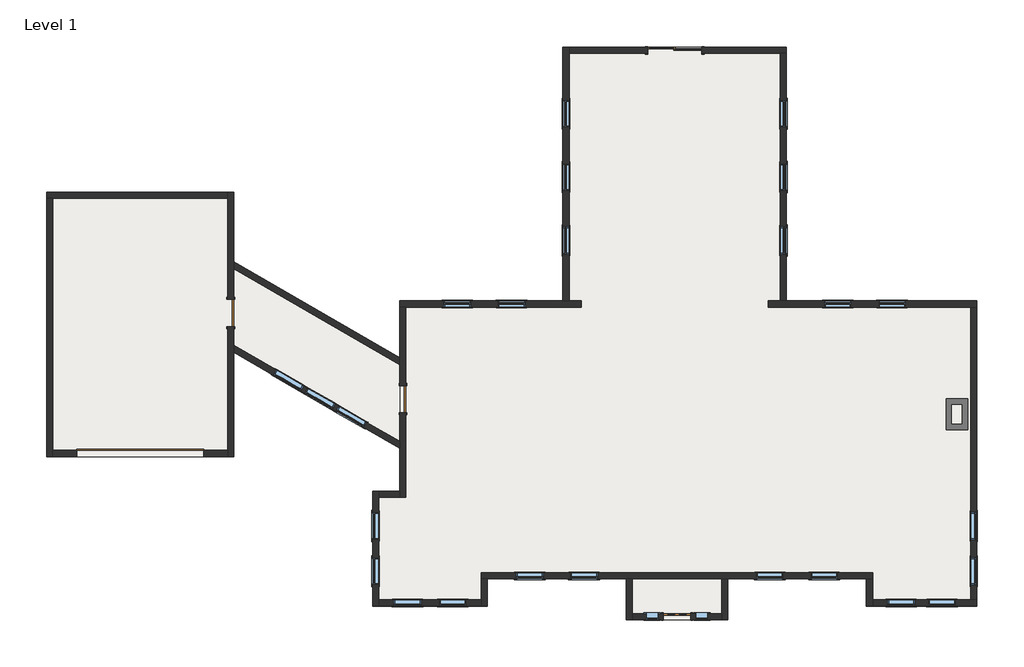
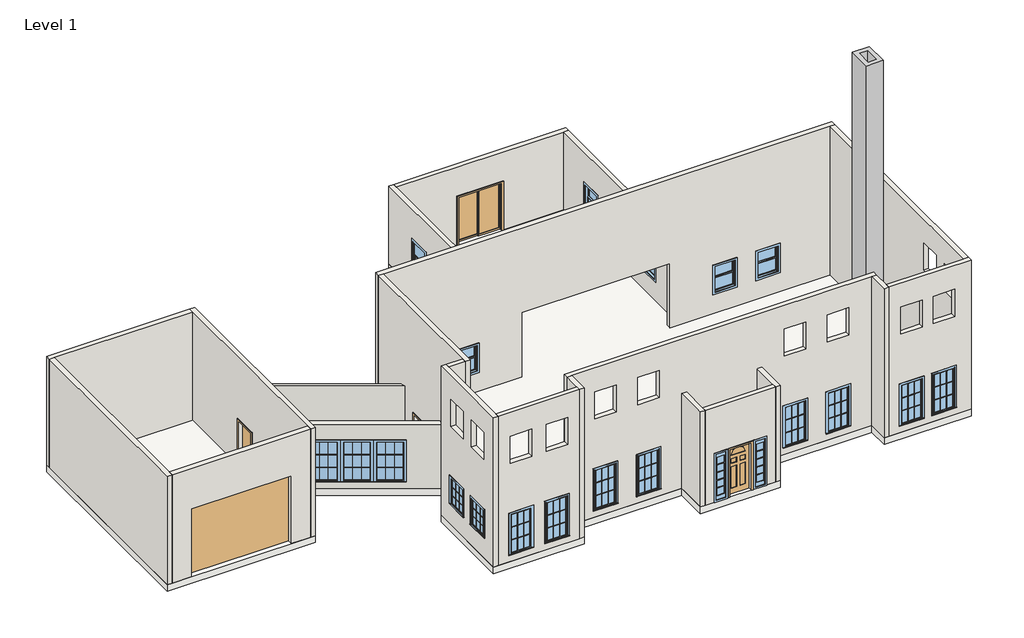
# One storey: 27 windows, 22 walls, 5 doors, 3 slabs, 1 proxy.
"""IFC4 building model written with IfcOpenShell, lengths in millimetres."""

from ifc_helpers import new_model, si_unit, frame, origin, origin_with_axes, place, context, project, spatial, polyline, outline, extrude, faceted_brep, transform, mapped, element, save
from components import chimney_chimney_af68f421, overhead_sectional_14_x_10_8c0ee61c, door_b1a02c97, door_4f2f89b6, door_f8fd2036, casement_3x3_with_trim_8b323df3, casement_3x3_with_trim_29c06734, casement_3x3_with_trim_7d330b5e, double_hung_with_trim_31198920, window_b28cb548, window_fc224a87

model = new_model("IFC4")

# Units and contexts
model_context = context("Model", 3, world=origin())
ifc_project = project(units=[si_unit("LENGTHUNIT", "METRE", prefix="MILLI")], contexts=[model_context])

# Site, building, storey
site = spatial("IfcSite", under=ifc_project)
building = spatial("IfcBuilding", under=site)
storey = spatial("IfcBuildingStorey", under=building, Name="Level 1", Elevation=0.0)

# Proxy
placement = place(None, origin())
chimney_chimney_shape = chimney_chimney_af68f421(model_context)
element("IfcBuildingElementProxy", 1, Name="chimney : chimney", ObjectType="chimney : chimney", at=placement, inside=storey, context=model_context, shape_type="MappedRepresentation", body=[
    mapped(chimney_chimney_shape, transform((0.0, 0.0, 0.0), x_axis=(1.0, 0.0, 0.0), y_axis=(0.0, 1.0, 0.0), z_axis=(0.0, 0.0, 1.0))),
])

# Doors
overhead_sectional_14_x_10_shape = overhead_sectional_14_x_10_8c0ee61c(model_context)
element("IfcDoor", 2, ObjectType="Overhead Sectional : 14 x 10", at=placement, inside=storey, context=model_context, shape_type="MappedRepresentation", body=[
    mapped(overhead_sectional_14_x_10_shape, transform((-185224.9354666, 11098.6757393, 0.0), x_axis=(-1.0, 0.0, 0.0), y_axis=(0.0, -1.0, 0.0), z_axis=(0.0, 0.0, 1.0))),
])
door_shape = door_b1a02c97(model_context)
element("IfcDoor", 3, ObjectType="Sample Decorative 2 : 36\" x 84\"", at=placement, inside=storey, context=model_context, shape_type="MappedRepresentation", body=[
    mapped(door_shape, transform((-167165.5354666, 5612.2757393, 0.0), x_axis=(1.0, 0.0, 0.0), y_axis=(0.0, 1.0, 0.0), z_axis=(0.0, 0.0, 1.0))),
])
door_2_shape = door_4f2f89b6(model_context)
element("IfcDoor", 4, ObjectType="Sgl Flush : 36\" x 80\"", at=placement, inside=storey, context=model_context, shape_type="MappedRepresentation", body=[
    mapped(door_2_shape, transform((-176385.7354666, 12927.4757393, 0.0), x_axis=(0.0, -1.0, 0.0), y_axis=(1.0, 0.0, 0.0), z_axis=(0.0, 0.0, 1.0))),
])
element("IfcDoor", 5, ObjectType="Sgl Flush : 36\" x 80\"", at=placement, inside=storey, context=model_context, shape_type="MappedRepresentation", body=[
    mapped(door_2_shape, transform((-182176.9354666, 15823.0757393, 0.0), x_axis=(0.0, -1.0, 0.0), y_axis=(1.0, 0.0, 0.0), z_axis=(0.0, 0.0, 1.0))),
])
door_3_shape = door_f8fd2036(model_context)
element("IfcDoor", 6, ObjectType="Sliding-2 panel : 72\" x 84\"", at=placement, inside=storey, context=model_context, shape_type="MappedRepresentation", body=[
    mapped(door_3_shape, transform((-167241.7354666, 24535.2757393, 0.0), x_axis=(1.0, 0.0, 0.0), y_axis=(0.0, 1.0, 0.0), z_axis=(0.0, 0.0, 1.0))),
])

# Slabs
element("IfcSlab", 7, ObjectType="Generic - 12\"", at=placement, inside=storey, context=model_context, shape_type="SweptSolid", body=[
    extrude(outline(polyline([(-188374.5354666, 19887.0757393), (-182075.3354666, 19887.0757393), (-182075.3354666, 10997.0757393), (-188374.5354666, 10997.0757393), (-188374.5354666, 19887.0757393)])), frame((0.0, 0.0, -304.8), z_axis=(0.0, 0.0, 1.0), x_axis=(1.0, 0.0, 0.0)), (0.0, 0.0, 1.0), 304.8),
])
element("IfcSlab", 8, ObjectType="Generic - 12\"", at=placement, inside=storey, context=model_context, shape_type="SweptSolid", body=[
    extrude(outline(polyline([(-182075.3354666, 17548.8854056), (-176487.3354666, 14322.6521013), (-176487.3354666, 11272.3951592), (-182075.3354666, 14498.6284634), (-182075.3354666, 17548.8854056)])), frame((0.0, 0.0, -304.8), z_axis=(0.0, 0.0, 1.0), x_axis=(1.0, 0.0, 0.0)), (0.0, 0.0, 1.0), 304.8),
])
element("IfcSlab", 9, ObjectType="Generic - 12\"", at=placement, inside=storey, context=model_context, shape_type="SweptSolid", body=[
    extrude(outline(polyline([(-171000.9354666, 16229.4757393), (-171000.9354666, 24763.8757393), (-163482.5354666, 24763.8757393), (-163482.5354666, 16229.4757393), (-157081.7354666, 16229.4757393), (-157081.7354666, 5967.8757393), (-160790.1354666, 5967.8757393), (-160790.1354666, 6882.2757393), (-165463.7354666, 6882.2757393), (-165463.7354666, 5510.6757393), (-168867.3354666, 5510.6757393), (-168867.3354666, 6882.2757393), (-173540.9354666, 6882.2757393), (-173540.9354666, 5967.8757393), (-177401.7354666, 5967.8757393), (-177401.7354666, 9828.6757393), (-176487.3354666, 9828.6757393), (-176487.3354666, 16229.4757393), (-171000.9354666, 16229.4757393)])), frame((0.0, 0.0, -304.8), z_axis=(0.0, 0.0, 1.0), x_axis=(1.0, 0.0, 0.0)), (0.0, 0.0, 1.0), 304.8),
])

# Walls
element("IfcWall", 10, ObjectType="Generic - 8\"", at=placement, inside=storey, context=model_context, shape_type="Brep", body=[
    faceted_brep([(-176487.3354666, 16026.2757393, 0.0), (-176284.1354666, 16026.2757393, 0.0), (-170391.3354666, 16026.2757393, 0.0), (-170391.3354666, 16026.2757393, 2895.6), (-164092.1354666, 16026.2757393, 2895.6), (-164092.1354666, 16026.2757393, 0.0), (-157284.9354666, 16026.2757393, 0.0), (-157081.7354666, 16026.2757393, 0.0), (-157081.7354666, 16026.2757393, 6705.6), (-157284.9354666, 16026.2757393, 6705.6), (-176284.1354666, 16026.2757393, 6705.6), (-176487.3354666, 16026.2757393, 6705.6), (-159469.3354666, 16026.2757393, 2133.6), (-159469.3354666, 16026.2757393, 914.4), (-160383.7354666, 16026.2757393, 914.4), (-160383.7354666, 16026.2757393, 2133.6), (-161298.1354666, 16026.2757393, 2133.6), (-161298.1354666, 16026.2757393, 914.4), (-162212.5354666, 16026.2757393, 914.4), (-162212.5354666, 16026.2757393, 2133.6), (-172270.9354666, 16026.2757393, 2133.6), (-172270.9354666, 16026.2757393, 914.4), (-173185.3354666, 16026.2757393, 914.4), (-173185.3354666, 16026.2757393, 2133.6), (-174099.7354666, 16026.2757393, 2133.6), (-174099.7354666, 16026.2757393, 914.4), (-175014.1354666, 16026.2757393, 914.4), (-175014.1354666, 16026.2757393, 2133.6), (-176487.3354666, 16229.4757393, 0.0), (-176487.3354666, 16229.4757393, 6705.6), (-157081.7354666, 16229.4757393, 6705.6), (-157081.7354666, 16229.4757393, 0.0), (-163482.5354666, 16229.4757393, 0.0), (-163685.7354666, 16229.4757393, 0.0), (-164092.1354666, 16229.4757393, 0.0), (-164092.1354666, 16229.4757393, 2895.6), (-170391.3354666, 16229.4757393, 2895.6), (-170391.3354666, 16229.4757393, 0.0), (-170797.7354666, 16229.4757393, 0.0), (-171000.9354666, 16229.4757393, 0.0), (-159469.3354666, 16229.4757393, 2133.6), (-160383.7354666, 16229.4757393, 2133.6), (-160383.7354666, 16229.4757393, 914.4), (-159469.3354666, 16229.4757393, 914.4), (-161298.1354666, 16229.4757393, 2133.6), (-162212.5354666, 16229.4757393, 2133.6), (-162212.5354666, 16229.4757393, 914.4), (-161298.1354666, 16229.4757393, 914.4), (-172270.9354666, 16229.4757393, 2133.6), (-173185.3354666, 16229.4757393, 2133.6), (-173185.3354666, 16229.4757393, 914.4), (-172270.9354666, 16229.4757393, 914.4), (-174099.7354666, 16229.4757393, 2133.6), (-175014.1354666, 16229.4757393, 2133.6), (-175014.1354666, 16229.4757393, 914.4), (-174099.7354666, 16229.4757393, 914.4)], [[[0, 1, 2, 3, 4, 5, 6, 7, 8, 9, 10, 11], [12, 13, 14, 15], [16, 17, 18, 19], [20, 21, 22, 23], [24, 25, 26, 27]], [[28, 29, 30, 31, 32, 33, 34, 35, 36, 37, 38, 39], [40, 41, 42, 43], [44, 45, 46, 47], [48, 49, 50, 51], [52, 53, 54, 55]], [[2, 1, 0, 28, 39, 38, 37]], [[11, 10, 9, 8, 30, 29]], [[0, 11, 29, 28]], [[3, 2, 37, 36]], [[4, 3, 36, 35]], [[5, 4, 35, 34]], [[7, 6, 5, 34, 33, 32, 31]], [[8, 7, 31, 30]], [[13, 12, 40, 43]], [[14, 13, 43, 42]], [[15, 14, 42, 41]], [[12, 15, 41, 40]], [[17, 16, 44, 47]], [[18, 17, 47, 46]], [[19, 18, 46, 45]], [[16, 19, 45, 44]], [[21, 20, 48, 51]], [[22, 21, 51, 50]], [[23, 22, 50, 49]], [[20, 23, 49, 48]], [[25, 24, 52, 55]], [[26, 25, 55, 54]], [[27, 26, 54, 53]], [[24, 27, 53, 52]]]),
])
element("IfcWall", 11, ObjectType="Generic - 8\"", at=placement, inside=storey, context=model_context, shape_type="Brep", body=[
    faceted_brep([(-176284.1354666, 9625.4757393, 0.0), (-176284.1354666, 12470.2757393, 0.0), (-176284.1354666, 12470.2757393, 2032.0), (-176284.1354666, 13384.6757393, 2032.0), (-176284.1354666, 13384.6757393, 0.0), (-176284.1354666, 16026.2757393, 0.0), (-176284.1354666, 16026.2757393, 6705.6), (-176284.1354666, 9625.4757393, 6705.6), (-176487.3354666, 12470.2757393, 2032.0), (-176487.3354666, 12470.2757393, 0.0), (-176487.3354666, 11507.0303086, 0.0), (-176487.3354666, 11272.3951592, 0.0), (-176487.3354666, 9828.6757393, 0.0), (-176487.3354666, 9625.4757393, 0.0), (-176487.3354666, 9625.4757393, 6705.6), (-176487.3354666, 9828.6757393, 6705.6), (-176487.3354666, 16026.2757393, 6705.6), (-176487.3354666, 16026.2757393, 0.0), (-176487.3354666, 14322.6521013, 0.0), (-176487.3354666, 14088.0169519, 0.0), (-176487.3354666, 13384.6757393, 0.0), (-176487.3354666, 13384.6757393, 2032.0)], [[[0, 1, 2, 3, 4, 5, 6, 7]], [[8, 9, 10, 11, 12, 13, 14, 15, 16, 17, 18, 19, 20, 21]], [[13, 12, 11, 10, 9, 1, 0]], [[20, 19, 18, 17, 5, 4]], [[7, 6, 16, 15, 14]], [[6, 5, 17, 16]], [[0, 7, 14, 13]], [[2, 1, 9, 8]], [[3, 2, 8, 21]], [[4, 3, 21, 20]]]),
])
element("IfcWall", 12, ObjectType="Generic - 8\"", at=placement, inside=storey, context=model_context, shape_type="Brep", body=[
    faceted_brep([(-160586.9354666, 7085.4757393, 0.0), (-173744.1354666, 7085.4757393, 0.0), (-173744.1354666, 7085.4757393, 6705.6), (-160586.9354666, 7085.4757393, 6705.6), (-162669.7354666, 7085.4757393, 5638.8), (-162669.7354666, 7085.4757393, 4419.6), (-161755.3354666, 7085.4757393, 4419.6), (-161755.3354666, 7085.4757393, 5638.8), (-164498.5354666, 7085.4757393, 5638.8), (-164498.5354666, 7085.4757393, 4419.6), (-163584.1354666, 7085.4757393, 4419.6), (-163584.1354666, 7085.4757393, 5638.8), (-170746.9354666, 7085.4757393, 5638.8), (-170746.9354666, 7085.4757393, 4419.6), (-169832.5354666, 7085.4757393, 4419.6), (-169832.5354666, 7085.4757393, 5638.8), (-172575.7354666, 7085.4757393, 5638.8), (-172575.7354666, 7085.4757393, 4419.6), (-171661.3354666, 7085.4757393, 4419.6), (-171661.3354666, 7085.4757393, 5638.8), (-162669.7354666, 7085.4757393, 2133.6), (-162669.7354666, 7085.4757393, 304.8), (-161755.3354666, 7085.4757393, 304.8), (-161755.3354666, 7085.4757393, 2133.6), (-164498.5354666, 7085.4757393, 2133.6), (-164498.5354666, 7085.4757393, 304.8), (-163584.1354666, 7085.4757393, 304.8), (-163584.1354666, 7085.4757393, 2133.6), (-170746.9354666, 7085.4757393, 2133.6), (-170746.9354666, 7085.4757393, 304.8), (-169832.5354666, 7085.4757393, 304.8), (-169832.5354666, 7085.4757393, 2133.6), (-172575.7354666, 7085.4757393, 2133.6), (-172575.7354666, 7085.4757393, 304.8), (-171661.3354666, 7085.4757393, 304.8), (-171661.3354666, 7085.4757393, 2133.6), (-160586.9354666, 6882.2757393, 0.0), (-160586.9354666, 6882.2757393, 6705.6), (-160790.1354666, 6882.2757393, 6705.6), (-173540.9354666, 6882.2757393, 6705.6), (-173744.1354666, 6882.2757393, 6705.6), (-173744.1354666, 6882.2757393, 0.0), (-173540.9354666, 6882.2757393, 0.0), (-168867.3354666, 6882.2757393, 0.0), (-168664.1354666, 6882.2757393, 0.0), (-165666.9354666, 6882.2757393, 0.0), (-165463.7354666, 6882.2757393, 0.0), (-160790.1354666, 6882.2757393, 0.0), (-162669.7354666, 6882.2757393, 5638.8), (-161755.3354666, 6882.2757393, 5638.8), (-161755.3354666, 6882.2757393, 4419.6), (-162669.7354666, 6882.2757393, 4419.6), (-164498.5354666, 6882.2757393, 5638.8), (-163584.1354666, 6882.2757393, 5638.8), (-163584.1354666, 6882.2757393, 4419.6), (-164498.5354666, 6882.2757393, 4419.6), (-170746.9354666, 6882.2757393, 5638.8), (-169832.5354666, 6882.2757393, 5638.8), (-169832.5354666, 6882.2757393, 4419.6), (-170746.9354666, 6882.2757393, 4419.6), (-172575.7354666, 6882.2757393, 5638.8), (-171661.3354666, 6882.2757393, 5638.8), (-171661.3354666, 6882.2757393, 4419.6), (-172575.7354666, 6882.2757393, 4419.6), (-162669.7354666, 6882.2757393, 2133.6), (-161755.3354666, 6882.2757393, 2133.6), (-161755.3354666, 6882.2757393, 304.8), (-162669.7354666, 6882.2757393, 304.8), (-164498.5354666, 6882.2757393, 2133.6), (-163584.1354666, 6882.2757393, 2133.6), (-163584.1354666, 6882.2757393, 304.8), (-164498.5354666, 6882.2757393, 304.8), (-170746.9354666, 6882.2757393, 2133.6), (-169832.5354666, 6882.2757393, 2133.6), (-169832.5354666, 6882.2757393, 304.8), (-170746.9354666, 6882.2757393, 304.8), (-172575.7354666, 6882.2757393, 2133.6), (-171661.3354666, 6882.2757393, 2133.6), (-171661.3354666, 6882.2757393, 304.8), (-172575.7354666, 6882.2757393, 304.8)], [[[0, 1, 2, 3], [4, 5, 6, 7], [8, 9, 10, 11], [12, 13, 14, 15], [16, 17, 18, 19], [20, 21, 22, 23], [24, 25, 26, 27], [28, 29, 30, 31], [32, 33, 34, 35]], [[36, 37, 38, 39, 40, 41, 42, 43, 44, 45, 46, 47], [48, 49, 50, 51], [52, 53, 54, 55], [56, 57, 58, 59], [60, 61, 62, 63], [64, 65, 66, 67], [68, 69, 70, 71], [72, 73, 74, 75], [76, 77, 78, 79]], [[1, 0, 36, 47, 46, 45, 44, 43, 42, 41]], [[3, 2, 40, 39, 38, 37]], [[2, 1, 41, 40]], [[0, 3, 37, 36]], [[5, 4, 48, 51]], [[6, 5, 51, 50]], [[7, 6, 50, 49]], [[4, 7, 49, 48]], [[9, 8, 52, 55]], [[10, 9, 55, 54]], [[11, 10, 54, 53]], [[8, 11, 53, 52]], [[13, 12, 56, 59]], [[14, 13, 59, 58]], [[15, 14, 58, 57]], [[12, 15, 57, 56]], [[17, 16, 60, 63]], [[18, 17, 63, 62]], [[19, 18, 62, 61]], [[16, 19, 61, 60]], [[21, 20, 64, 67]], [[22, 21, 67, 66]], [[23, 22, 66, 65]], [[20, 23, 65, 64]], [[25, 24, 68, 71]], [[26, 25, 71, 70]], [[27, 26, 70, 69]], [[24, 27, 69, 68]], [[29, 28, 72, 75]], [[30, 29, 75, 74]], [[31, 30, 74, 73]], [[28, 31, 73, 72]], [[33, 32, 76, 79]], [[34, 33, 79, 78]], [[35, 34, 78, 77]], [[32, 35, 77, 76]]]),
])
element("IfcWall", 13, ObjectType="Generic - 8\"", at=placement, inside=storey, context=model_context, shape_type="Brep", body=[
    faceted_brep([(-177198.5354666, 5967.8757393, 6705.6), (-177198.5354666, 6171.0757393, 6705.6), (-177198.5354666, 9625.4757393, 6705.6), (-177198.5354666, 9828.6757393, 6705.6), (-177401.7354666, 9828.6757393, 6705.6), (-177401.7354666, 5967.8757393, 6705.6), (-177198.5354666, 5967.8757393, 0.0), (-177198.5354666, 6171.0757393, 0.0), (-177198.5354666, 9625.4757393, 0.0), (-177198.5354666, 9828.6757393, 0.0), (-177198.5354666, 9117.4757393, 2133.6), (-177198.5354666, 9117.4757393, 914.4), (-177198.5354666, 8203.0757393, 914.4), (-177198.5354666, 8203.0757393, 2133.6), (-177198.5354666, 7593.4757393, 2133.6), (-177198.5354666, 7593.4757393, 914.4), (-177198.5354666, 6679.0757393, 914.4), (-177198.5354666, 6679.0757393, 2133.6), (-177198.5354666, 9117.4757393, 5638.8), (-177198.5354666, 9117.4757393, 4419.6), (-177198.5354666, 8203.0757393, 4419.6), (-177198.5354666, 8203.0757393, 5638.8), (-177198.5354666, 7593.4757393, 5638.8), (-177198.5354666, 7593.4757393, 4419.6), (-177198.5354666, 6679.0757393, 4419.6), (-177198.5354666, 6679.0757393, 5638.8), (-177401.7354666, 5967.8757393, 0.0), (-177401.7354666, 9828.6757393, 0.0), (-177401.7354666, 9117.4757393, 2133.6), (-177401.7354666, 8203.0757393, 2133.6), (-177401.7354666, 8203.0757393, 914.4), (-177401.7354666, 9117.4757393, 914.4), (-177401.7354666, 7593.4757393, 2133.6), (-177401.7354666, 6679.0757393, 2133.6), (-177401.7354666, 6679.0757393, 914.4), (-177401.7354666, 7593.4757393, 914.4), (-177401.7354666, 9117.4757393, 5638.8), (-177401.7354666, 8203.0757393, 5638.8), (-177401.7354666, 8203.0757393, 4419.6), (-177401.7354666, 9117.4757393, 4419.6), (-177401.7354666, 7593.4757393, 5638.8), (-177401.7354666, 6679.0757393, 5638.8), (-177401.7354666, 6679.0757393, 4419.6), (-177401.7354666, 7593.4757393, 4419.6)], [[[0, 1, 2, 3, 4, 5]], [[6, 7, 8, 9, 3, 2, 1, 0], [10, 11, 12, 13], [14, 15, 16, 17], [18, 19, 20, 21], [22, 23, 24, 25]], [[26, 5, 4, 27], [28, 29, 30, 31], [32, 33, 34, 35], [36, 37, 38, 39], [40, 41, 42, 43]], [[9, 8, 7, 6, 26, 27]], [[3, 9, 27, 4]], [[6, 0, 5, 26]], [[11, 10, 28, 31]], [[12, 11, 31, 30]], [[13, 12, 30, 29]], [[10, 13, 29, 28]], [[15, 14, 32, 35]], [[16, 15, 35, 34]], [[17, 16, 34, 33]], [[14, 17, 33, 32]], [[19, 18, 36, 39]], [[20, 19, 39, 38]], [[21, 20, 38, 37]], [[18, 21, 37, 36]], [[23, 22, 40, 43]], [[24, 23, 43, 42]], [[25, 24, 42, 41]], [[22, 25, 41, 40]]]),
])
element("IfcWall", 14, ObjectType="Generic - 8\"", at=placement, inside=storey, context=model_context, shape_type="SweptSolid", body=[
    extrude(outline(polyline([(-176487.3354666, 9625.4757393), (-177198.5354666, 9625.4757393), (-177198.5354666, 9828.6757393), (-176487.3354666, 9828.6757393), (-176487.3354666, 9625.4757393)])), origin_with_axes(), (0.0, 0.0, 1.0), 6705.6),
])
element("IfcWall", 15, ObjectType="Generic - 8\"", at=placement, inside=storey, context=model_context, shape_type="SweptSolid", body=[
    extrude(outline(polyline([(16026.2757393, 0.0), (6171.0757393, 0.0), (6171.0757393, 6705.6), (16026.2757393, 6705.6), (16026.2757393, 0.0)]), holes=[polyline([(8203.0757393, 2133.6), (8203.0757393, 914.4), (9117.4757393, 914.4), (9117.4757393, 2133.6), (8203.0757393, 2133.6)]), polyline([(6679.0757393, 2133.6), (6679.0757393, 914.4), (7593.4757393, 914.4), (7593.4757393, 2133.6), (6679.0757393, 2133.6)]), polyline([(8203.0757393, 5638.8), (8203.0757393, 4419.6), (9117.4757393, 4419.6), (9117.4757393, 5638.8), (8203.0757393, 5638.8)]), polyline([(6679.0757393, 5638.8), (6679.0757393, 4419.6), (7593.4757393, 4419.6), (7593.4757393, 5638.8), (6679.0757393, 5638.8)])]), frame((-157284.9354666, 0.0, 0.0), z_axis=(1.0, 0.0, 0.0), x_axis=(0.0, 1.0, 0.0)), (0.0, 0.0, 1.0), 203.2),
])
element("IfcWall", 16, ObjectType="Generic - 8\"", at=placement, inside=storey, context=model_context, shape_type="Brep", body=[
    faceted_brep([(-173744.1354666, 6882.2757393, 0.0), (-173744.1354666, 6171.0757393, 0.0), (-173744.1354666, 5967.8757393, 0.0), (-173744.1354666, 5967.8757393, 6705.6), (-173744.1354666, 6171.0757393, 6705.6), (-173744.1354666, 6882.2757393, 6705.6), (-173540.9354666, 6882.2757393, 0.0), (-173540.9354666, 6882.2757393, 6705.6), (-173540.9354666, 5967.8757393, 6705.6), (-173540.9354666, 5967.8757393, 0.0)], [[[0, 1, 2, 3, 4, 5]], [[6, 7, 8, 9]], [[2, 1, 0, 6, 9]], [[5, 4, 3, 8, 7]], [[3, 2, 9, 8]], [[0, 5, 7, 6]]]),
])
element("IfcWall", 17, ObjectType="Generic - 8\"", at=placement, inside=storey, context=model_context, shape_type="SweptSolid", body=[
    extrude(outline(polyline([(0.0, -173744.1354666), (6705.6, -173744.1354666), (6705.6, -177198.5354666), (0.0, -177198.5354666), (0.0, -173744.1354666)]), holes=[polyline([(5638.8, -175166.5354666), (5638.8, -174252.1354666), (4419.6, -174252.1354666), (4419.6, -175166.5354666), (5638.8, -175166.5354666)]), polyline([(5638.8, -176690.5354666), (5638.8, -175776.1354666), (4419.6, -175776.1354666), (4419.6, -176690.5354666), (5638.8, -176690.5354666)]), polyline([(2133.6, -175166.5354666), (2133.6, -174252.1354666), (304.8, -174252.1354666), (304.8, -175166.5354666), (2133.6, -175166.5354666)]), polyline([(2133.6, -176690.5354666), (2133.6, -175776.1354666), (304.8, -175776.1354666), (304.8, -176690.5354666), (2133.6, -176690.5354666)])]), frame((0.0, 5967.8757393, 0.0), z_axis=(0.0, 1.0, 0.0), x_axis=(0.0, 0.0, 1.0)), (0.0, 0.0, 1.0), 203.2),
])
element("IfcWall", 18, ObjectType="Generic - 8\"", at=placement, inside=storey, context=model_context, shape_type="Brep", body=[
    faceted_brep([(-160790.1354666, 6882.2757393, 0.0), (-160790.1354666, 5967.8757393, 0.0), (-160790.1354666, 5967.8757393, 6705.6), (-160790.1354666, 6882.2757393, 6705.6), (-160586.9354666, 6882.2757393, 0.0), (-160586.9354666, 6882.2757393, 6705.6), (-160586.9354666, 6171.0757393, 6705.6), (-160586.9354666, 5967.8757393, 6705.6), (-160586.9354666, 5967.8757393, 0.0), (-160586.9354666, 6171.0757393, 0.0)], [[[0, 1, 2, 3]], [[4, 5, 6, 7, 8, 9]], [[1, 0, 4, 9, 8]], [[3, 2, 7, 6, 5]], [[2, 1, 8, 7]], [[0, 3, 5, 4]]]),
])
element("IfcWall", 19, ObjectType="Generic - 8\"", at=placement, inside=storey, context=model_context, shape_type="Brep", body=[
    faceted_brep([(-160586.9354666, 5967.8757393, 6705.6), (-157081.7354666, 5967.8757393, 6705.6), (-157081.7354666, 6171.0757393, 6705.6), (-157284.9354666, 6171.0757393, 6705.6), (-160586.9354666, 6171.0757393, 6705.6), (-160586.9354666, 5967.8757393, 0.0), (-157081.7354666, 5967.8757393, 0.0), (-158707.3354666, 5967.8757393, 5638.8), (-157792.9354666, 5967.8757393, 5638.8), (-157792.9354666, 5967.8757393, 4419.6), (-158707.3354666, 5967.8757393, 4419.6), (-160078.9354666, 5967.8757393, 5638.8), (-159164.5354666, 5967.8757393, 5638.8), (-159164.5354666, 5967.8757393, 4419.6), (-160078.9354666, 5967.8757393, 4419.6), (-158707.3354666, 5967.8757393, 2133.6), (-157792.9354666, 5967.8757393, 2133.6), (-157792.9354666, 5967.8757393, 304.8), (-158707.3354666, 5967.8757393, 304.8), (-160078.9354666, 5967.8757393, 2133.6), (-159164.5354666, 5967.8757393, 2133.6), (-159164.5354666, 5967.8757393, 304.8), (-160078.9354666, 5967.8757393, 304.8), (-160586.9354666, 6171.0757393, 0.0), (-157081.7354666, 6171.0757393, 0.0), (-157284.9354666, 6171.0757393, 0.0), (-158707.3354666, 6171.0757393, 5638.8), (-158707.3354666, 6171.0757393, 4419.6), (-157792.9354666, 6171.0757393, 4419.6), (-157792.9354666, 6171.0757393, 5638.8), (-160078.9354666, 6171.0757393, 5638.8), (-160078.9354666, 6171.0757393, 4419.6), (-159164.5354666, 6171.0757393, 4419.6), (-159164.5354666, 6171.0757393, 5638.8), (-158707.3354666, 6171.0757393, 2133.6), (-158707.3354666, 6171.0757393, 304.8), (-157792.9354666, 6171.0757393, 304.8), (-157792.9354666, 6171.0757393, 2133.6), (-160078.9354666, 6171.0757393, 2133.6), (-160078.9354666, 6171.0757393, 304.8), (-159164.5354666, 6171.0757393, 304.8), (-159164.5354666, 6171.0757393, 2133.6)], [[[0, 1, 2, 3, 4]], [[5, 6, 1, 0], [7, 8, 9, 10], [11, 12, 13, 14], [15, 16, 17, 18], [19, 20, 21, 22]], [[23, 4, 3, 2, 24, 25], [26, 27, 28, 29], [30, 31, 32, 33], [34, 35, 36, 37], [38, 39, 40, 41]], [[6, 5, 23, 25, 24]], [[5, 0, 4, 23]], [[1, 6, 24, 2]], [[27, 26, 7, 10]], [[28, 27, 10, 9]], [[29, 28, 9, 8]], [[26, 29, 8, 7]], [[31, 30, 11, 14]], [[32, 31, 14, 13]], [[33, 32, 13, 12]], [[30, 33, 12, 11]], [[35, 34, 15, 18]], [[36, 35, 18, 17]], [[37, 36, 17, 16]], [[34, 37, 16, 15]], [[39, 38, 19, 22]], [[40, 39, 22, 21]], [[41, 40, 21, 20]], [[38, 41, 20, 19]]]),
])
element("IfcWall", 20, ObjectType="Generic - 8\"", at=placement, inside=storey, context=model_context, shape_type="Brep", body=[
    faceted_brep([(-168867.3354666, 6882.2757393, 0.0), (-168867.3354666, 5510.6757393, 0.0), (-168867.3354666, 5510.6757393, 4267.2), (-168867.3354666, 6882.2757393, 4267.2), (-168664.1354666, 6882.2757393, 0.0), (-168664.1354666, 6882.2757393, 4267.2), (-168664.1354666, 5713.8757393, 4267.2), (-168664.1354666, 5510.6757393, 4267.2), (-168664.1354666, 5510.6757393, 0.0), (-168664.1354666, 5713.8757393, 0.0)], [[[0, 1, 2, 3]], [[4, 5, 6, 7, 8, 9]], [[1, 0, 4, 9, 8]], [[3, 2, 7, 6, 5]], [[2, 1, 8, 7]], [[0, 3, 5, 4]]]),
])
element("IfcWall", 21, ObjectType="Generic - 8\"", at=placement, inside=storey, context=model_context, shape_type="Brep", body=[
    faceted_brep([(-165666.9354666, 6882.2757393, 0.0), (-165666.9354666, 5713.8757393, 0.0), (-165666.9354666, 5510.6757393, 0.0), (-165666.9354666, 5510.6757393, 4267.2), (-165666.9354666, 5713.8757393, 4267.2), (-165666.9354666, 6882.2757393, 4267.2), (-165463.7354666, 6882.2757393, 0.0), (-165463.7354666, 6882.2757393, 4267.2), (-165463.7354666, 5510.6757393, 4267.2), (-165463.7354666, 5510.6757393, 0.0)], [[[0, 1, 2, 3, 4, 5]], [[6, 7, 8, 9]], [[2, 1, 0, 6, 9]], [[5, 4, 3, 8, 7]], [[3, 2, 9, 8]], [[0, 5, 7, 6]]]),
])
element("IfcWall", 22, ObjectType="Generic - 8\"", at=placement, inside=storey, context=model_context, shape_type="SweptSolid", body=[
    extrude(outline(polyline([(0.0, -166708.3354666), (0.0, -166530.5354666), (2133.6, -166530.5354666), (2133.6, -166124.1354666), (0.0, -166124.1354666), (0.0, -165666.9354666), (4267.2, -165666.9354666), (4267.2, -168664.1354666), (0.0, -168664.1354666), (0.0, -168206.9354666), (2133.6, -168206.9354666), (2133.6, -167800.5354666), (0.0, -167800.5354666), (0.0, -167622.7354666), (2133.6, -167622.7354666), (2133.6, -166708.3354666), (0.0, -166708.3354666)])), frame((0.0, 5510.6757393, 0.0), z_axis=(0.0, 1.0, 0.0), x_axis=(0.0, 0.0, 1.0)), (0.0, 0.0, 1.0), 203.2),
])
element("IfcWall", 23, ObjectType="Generic - 8\"", at=placement, inside=storey, context=model_context, shape_type="Brep", body=[
    faceted_brep([(-170797.7354666, 16229.4757393, 3505.2), (-170797.7354666, 24560.6757393, 3505.2), (-170797.7354666, 24763.8757393, 3505.2), (-171000.9354666, 24763.8757393, 3505.2), (-171000.9354666, 16229.4757393, 3505.2), (-170797.7354666, 16229.4757393, 0.0), (-170797.7354666, 24560.6757393, 0.0), (-170797.7354666, 24763.8757393, 0.0), (-170797.7354666, 22985.8757393, 2133.6), (-170797.7354666, 22985.8757393, 914.4), (-170797.7354666, 22071.4757393, 914.4), (-170797.7354666, 22071.4757393, 2133.6), (-170797.7354666, 20852.2757393, 2133.6), (-170797.7354666, 20852.2757393, 914.4), (-170797.7354666, 19937.8757393, 914.4), (-170797.7354666, 19937.8757393, 2133.6), (-170797.7354666, 18718.6757393, 2133.6), (-170797.7354666, 18718.6757393, 914.4), (-170797.7354666, 17804.2757393, 914.4), (-170797.7354666, 17804.2757393, 2133.6), (-171000.9354666, 16229.4757393, 0.0), (-171000.9354666, 24763.8757393, 0.0), (-171000.9354666, 22985.8757393, 2133.6), (-171000.9354666, 22071.4757393, 2133.6), (-171000.9354666, 22071.4757393, 914.4), (-171000.9354666, 22985.8757393, 914.4), (-171000.9354666, 20852.2757393, 2133.6), (-171000.9354666, 19937.8757393, 2133.6), (-171000.9354666, 19937.8757393, 914.4), (-171000.9354666, 20852.2757393, 914.4), (-171000.9354666, 18718.6757393, 2133.6), (-171000.9354666, 17804.2757393, 2133.6), (-171000.9354666, 17804.2757393, 914.4), (-171000.9354666, 18718.6757393, 914.4)], [[[0, 1, 2, 3, 4]], [[5, 6, 7, 2, 1, 0], [8, 9, 10, 11], [12, 13, 14, 15], [16, 17, 18, 19]], [[20, 4, 3, 21], [22, 23, 24, 25], [26, 27, 28, 29], [30, 31, 32, 33]], [[7, 6, 5, 20, 21]], [[5, 0, 4, 20]], [[2, 7, 21, 3]], [[9, 8, 22, 25]], [[10, 9, 25, 24]], [[11, 10, 24, 23]], [[8, 11, 23, 22]], [[13, 12, 26, 29]], [[14, 13, 29, 28]], [[15, 14, 28, 27]], [[12, 15, 27, 26]], [[17, 16, 30, 33]], [[18, 17, 33, 32]], [[19, 18, 32, 31]], [[16, 19, 31, 30]]]),
])
element("IfcWall", 24, ObjectType="Generic - 8\"", at=placement, inside=storey, context=model_context, shape_type="Brep", body=[
    faceted_brep([(-170797.7354666, 24560.6757393, 3505.2), (-163685.7354666, 24560.6757393, 3505.2), (-163482.5354666, 24560.6757393, 3505.2), (-163482.5354666, 24763.8757393, 3505.2), (-170797.7354666, 24763.8757393, 3505.2), (-166327.3354666, 24560.6757393, 2133.6), (-166327.3354666, 24560.6757393, 0.0), (-163685.7354666, 24560.6757393, 0.0), (-163482.5354666, 24560.6757393, 0.0), (-170797.7354666, 24560.6757393, 0.0), (-168156.1354666, 24560.6757393, 0.0), (-168156.1354666, 24560.6757393, 2133.6), (-163482.5354666, 24763.8757393, 0.0), (-166327.3354666, 24763.8757393, 0.0), (-166327.3354666, 24763.8757393, 2133.6), (-168156.1354666, 24763.8757393, 2133.6), (-168156.1354666, 24763.8757393, 0.0), (-170797.7354666, 24763.8757393, 0.0)], [[[0, 1, 2, 3, 4]], [[5, 6, 7, 8, 2, 1, 0, 9, 10, 11]], [[12, 13, 14, 15, 16, 17, 4, 3]], [[8, 7, 6, 13, 12]], [[10, 9, 17, 16]], [[9, 0, 4, 17]], [[2, 8, 12, 3]], [[16, 15, 11, 10]], [[14, 13, 6, 5]], [[15, 14, 5, 11]]]),
])
element("IfcWall", 25, ObjectType="Generic - 8\"", at=placement, inside=storey, context=model_context, shape_type="SweptSolid", body=[
    extrude(outline(polyline([(16229.4757393, 0.0), (16229.4757393, 3505.2), (24560.6757393, 3505.2), (24560.6757393, 0.0), (16229.4757393, 0.0)]), holes=[polyline([(17804.2757393, 2133.6), (17804.2757393, 914.4), (18718.6757393, 914.4), (18718.6757393, 2133.6), (17804.2757393, 2133.6)]), polyline([(19937.8757393, 2133.6), (19937.8757393, 914.4), (20852.2757393, 914.4), (20852.2757393, 2133.6), (19937.8757393, 2133.6)]), polyline([(22071.4757393, 2133.6), (22071.4757393, 914.4), (22985.8757393, 914.4), (22985.8757393, 2133.6), (22071.4757393, 2133.6)])]), frame((-163685.7354666, 0.0, 0.0), z_axis=(1.0, 0.0, 0.0), x_axis=(0.0, 1.0, 0.0)), (0.0, 0.0, 1.0), 203.2),
])
element("IfcWall", 26, ObjectType="Generic - 8\"", at=placement, inside=storey, context=model_context, shape_type="Brep", body=[
    faceted_brep([(-188374.5354666, 19683.8757393, 0.0), (-188171.3354666, 19683.8757393, 0.0), (-182278.5354666, 19683.8757393, 0.0), (-182278.5354666, 19683.8757393, 4876.8), (-188171.3354666, 19683.8757393, 4876.8), (-188374.5354666, 19683.8757393, 4876.8), (-188374.5354666, 19887.0757393, 0.0), (-188374.5354666, 19887.0757393, 4876.8), (-182278.5354666, 19887.0757393, 4876.8), (-182278.5354666, 19887.0757393, 0.0)], [[[0, 1, 2, 3, 4, 5]], [[6, 7, 8, 9]], [[2, 1, 0, 6, 9]], [[5, 4, 3, 8, 7]], [[0, 5, 7, 6]], [[3, 2, 9, 8]]]),
])
element("IfcWall", 27, ObjectType="Generic - 8\"", at=placement, inside=storey, context=model_context, shape_type="Brep", body=[
    faceted_brep([(-188171.3354666, 10997.0757393, 0.0), (-188171.3354666, 11200.2757393, 0.0), (-188171.3354666, 19683.8757393, 0.0), (-188171.3354666, 19683.8757393, 4876.8), (-188171.3354666, 11200.2757393, 4876.8), (-188171.3354666, 10997.0757393, 4876.8), (-188374.5354666, 10997.0757393, 0.0), (-188374.5354666, 10997.0757393, 4876.8), (-188374.5354666, 19683.8757393, 4876.8), (-188374.5354666, 19683.8757393, 0.0)], [[[0, 1, 2, 3, 4, 5]], [[6, 7, 8, 9]], [[2, 1, 0, 6, 9]], [[5, 4, 3, 8, 7]], [[0, 5, 7, 6]], [[3, 2, 9, 8]]]),
])
element("IfcWall", 28, ObjectType="Generic - 8\"", at=placement, inside=storey, context=model_context, shape_type="SweptSolid", body=[
    extrude(outline(polyline([(0.0, -188171.3354666), (0.0, -187358.5354666), (3048.0, -187358.5354666), (3048.0, -183091.3354666), (0.0, -183091.3354666), (0.0, -182278.5354666), (4876.8, -182278.5354666), (4876.8, -188171.3354666), (0.0, -188171.3354666)])), frame((0.0, 10997.0757393, 0.0), z_axis=(0.0, 1.0, 0.0), x_axis=(0.0, 0.0, 1.0)), (0.0, 0.0, 1.0), 203.2),
])
element("IfcWall", 29, ObjectType="Generic - 8\"", at=placement, inside=storey, context=model_context, shape_type="Brep", body=[
    faceted_brep([(-182278.5354666, 15365.8757393, 2032.0), (-182278.5354666, 15365.8757393, 0.0), (-182278.5354666, 11200.2757393, 0.0), (-182278.5354666, 10997.0757393, 0.0), (-182278.5354666, 10997.0757393, 4876.8), (-182278.5354666, 11200.2757393, 4876.8), (-182278.5354666, 19683.8757393, 4876.8), (-182278.5354666, 19887.0757393, 4876.8), (-182278.5354666, 19887.0757393, 0.0), (-182278.5354666, 19683.8757393, 0.0), (-182278.5354666, 16280.2757393, 0.0), (-182278.5354666, 16280.2757393, 2032.0), (-182075.3354666, 10997.0757393, 0.0), (-182075.3354666, 14498.6284634, 0.0), (-182075.3354666, 14733.2636128, 0.0), (-182075.3354666, 15365.8757393, 0.0), (-182075.3354666, 15365.8757393, 2032.0), (-182075.3354666, 16280.2757393, 2032.0), (-182075.3354666, 16280.2757393, 0.0), (-182075.3354666, 17314.2502562, 0.0), (-182075.3354666, 17548.8854056, 0.0), (-182075.3354666, 19887.0757393, 0.0), (-182075.3354666, 19887.0757393, 4876.8), (-182075.3354666, 10997.0757393, 4876.8)], [[[0, 1, 2, 3, 4, 5, 6, 7, 8, 9, 10, 11]], [[12, 13, 14, 15, 16, 17, 18, 19, 20, 21, 22, 23]], [[3, 2, 1, 15, 14, 13, 12]], [[10, 9, 8, 21, 20, 19, 18]], [[7, 6, 5, 4, 23, 22]], [[8, 7, 22, 21]], [[4, 3, 12, 23]], [[16, 15, 1, 0]], [[17, 16, 0, 11]], [[18, 17, 11, 10]]]),
])
element("IfcWall", 30, ObjectType="Generic - 8\"", at=placement, inside=storey, context=model_context, shape_type="Brep", body=[
    faceted_brep([(-176487.3354666, 14322.6521013, 0.0), (-182075.3354666, 17548.8854056, 0.0), (-182075.3354666, 17548.8854056, 2850.8499433), (-176487.3354666, 14322.6521013, 2850.8499433), (-176487.3354666, 14088.0169519, 0.0), (-176487.3354666, 14088.0169519, 2903.1013718), (-182075.3354666, 17314.2502562, 2903.1013718), (-182075.3354666, 17314.2502562, 0.0)], [[[0, 1, 2, 3]], [[4, 5, 6, 7]], [[1, 0, 4, 7]], [[0, 3, 5, 4]], [[2, 1, 7, 6]], [[3, 2, 6, 5]]]),
])
element("IfcWall", 31, ObjectType="Generic - 8\"", at=placement, inside=storey, context=model_context, shape_type="Brep", body=[
    faceted_brep([(-176487.3354666, 11507.0303086, 0.0), (-182075.3354666, 14733.2636128, 0.0), (-182075.3354666, 14733.2636128, 2903.1013718), (-176487.3354666, 11507.0303086, 2903.1013718), (-178535.1154909, 12689.3166568, 2133.6), (-178535.1154909, 12689.3166568, 304.8), (-177611.2395902, 12155.9166568, 304.8), (-177611.2395902, 12155.9166568, 2133.6), (-179590.9736632, 13298.9166568, 2133.6), (-179590.9736632, 13298.9166568, 304.8), (-178667.0977625, 12765.5166568, 304.8), (-178667.0977625, 12765.5166568, 2133.6), (-180646.8318355, 13908.5166568, 2133.6), (-180646.8318355, 13908.5166568, 304.8), (-179722.9559347, 13375.1166568, 304.8), (-179722.9559347, 13375.1166568, 2133.6), (-176487.3354666, 11272.3951592, 0.0), (-176487.3354666, 11272.3951592, 2850.8499433), (-182075.3354666, 14498.6284634, 2850.8499433), (-182075.3354666, 14498.6284634, 0.0), (-178636.7154909, 12513.3402948, 2133.6), (-177712.8395902, 11979.9402948, 2133.6), (-177712.8395902, 11979.9402948, 304.8), (-178636.7154909, 12513.3402948, 304.8), (-179692.5736632, 13122.9402948, 2133.6), (-178768.6977625, 12589.5402948, 2133.6), (-178768.6977625, 12589.5402948, 304.8), (-179692.5736632, 13122.9402948, 304.8), (-180748.4318355, 13732.5402948, 2133.6), (-179824.5559347, 13199.1402948, 2133.6), (-179824.5559347, 13199.1402948, 304.8), (-180748.4318355, 13732.5402948, 304.8)], [[[0, 1, 2, 3], [4, 5, 6, 7], [8, 9, 10, 11], [12, 13, 14, 15]], [[16, 17, 18, 19], [20, 21, 22, 23], [24, 25, 26, 27], [28, 29, 30, 31]], [[1, 0, 16, 19]], [[0, 3, 17, 16]], [[2, 1, 19, 18]], [[3, 2, 18, 17]], [[5, 4, 20, 23]], [[6, 5, 23, 22]], [[7, 6, 22, 21]], [[4, 7, 21, 20]], [[9, 8, 24, 27]], [[10, 9, 27, 26]], [[11, 10, 26, 25]], [[8, 11, 25, 24]], [[13, 12, 28, 31]], [[14, 13, 31, 30]], [[15, 14, 30, 29]], [[12, 15, 29, 28]]]),
])

# Windows
casement_3x3_with_trim_shape = casement_3x3_with_trim_8b323df3(model_context)
element("IfcWindow", 32, ObjectType="Casement 3x3 with Trim : 36\"w x 72\"h", at=placement, inside=storey, context=model_context, shape_type="MappedRepresentation", body=[
    mapped(casement_3x3_with_trim_shape, transform((-176233.3354666, 6069.4757393, 0.0), x_axis=(-1.0, 0.0, 0.0), y_axis=(0.0, -1.0, 0.0), z_axis=(0.0, 0.0, 1.0))),
])
element("IfcWindow", 33, ObjectType="Casement 3x3 with Trim : 36\"w x 72\"h", at=placement, inside=storey, context=model_context, shape_type="MappedRepresentation", body=[
    mapped(casement_3x3_with_trim_shape, transform((-174709.3354666, 6069.4757393, 0.0), x_axis=(-1.0, 0.0, 0.0), y_axis=(0.0, -1.0, 0.0), z_axis=(0.0, 0.0, 1.0))),
])
element("IfcWindow", 34, ObjectType="Casement 3x3 with Trim : 36\"w x 72\"h", at=placement, inside=storey, context=model_context, shape_type="MappedRepresentation", body=[
    mapped(casement_3x3_with_trim_shape, transform((-159621.7354666, 6069.4757393, 0.0), x_axis=(-1.0, 0.0, 0.0), y_axis=(0.0, -1.0, 0.0), z_axis=(0.0, 0.0, 1.0))),
])
element("IfcWindow", 35, ObjectType="Casement 3x3 with Trim : 36\"w x 72\"h", at=placement, inside=storey, context=model_context, shape_type="MappedRepresentation", body=[
    mapped(casement_3x3_with_trim_shape, transform((-158250.1354666, 6069.4757393, 0.0), x_axis=(-1.0, 0.0, 0.0), y_axis=(0.0, -1.0, 0.0), z_axis=(0.0, 0.0, 1.0))),
])
element("IfcWindow", 36, ObjectType="Casement 3x3 with Trim : 36\"w x 72\"h", at=placement, inside=storey, context=model_context, shape_type="MappedRepresentation", body=[
    mapped(casement_3x3_with_trim_shape, transform((-172118.5354666, 6983.8757393, 0.0), x_axis=(-1.0, 0.0, 0.0), y_axis=(0.0, -1.0, 0.0), z_axis=(0.0, 0.0, 1.0))),
])
element("IfcWindow", 37, ObjectType="Casement 3x3 with Trim : 36\"w x 72\"h", at=placement, inside=storey, context=model_context, shape_type="MappedRepresentation", body=[
    mapped(casement_3x3_with_trim_shape, transform((-170289.7354666, 6983.8757393, 0.0), x_axis=(-1.0, 0.0, 0.0), y_axis=(0.0, -1.0, 0.0), z_axis=(0.0, 0.0, 1.0))),
])
element("IfcWindow", 38, ObjectType="Casement 3x3 with Trim : 36\"w x 72\"h", at=placement, inside=storey, context=model_context, shape_type="MappedRepresentation", body=[
    mapped(casement_3x3_with_trim_shape, transform((-164041.3354666, 6983.8757393, 0.0), x_axis=(-1.0, 0.0, 0.0), y_axis=(0.0, -1.0, 0.0), z_axis=(0.0, 0.0, 1.0))),
])
element("IfcWindow", 39, ObjectType="Casement 3x3 with Trim : 36\"w x 72\"h", at=placement, inside=storey, context=model_context, shape_type="MappedRepresentation", body=[
    mapped(casement_3x3_with_trim_shape, transform((-162212.5354666, 6983.8757393, 0.0), x_axis=(-1.0, 0.0, 0.0), y_axis=(0.0, -1.0, 0.0), z_axis=(0.0, 0.0, 1.0))),
])
casement_3x3_with_trim_2_shape = casement_3x3_with_trim_29c06734(model_context)
element("IfcWindow", 40, ObjectType="Casement 3x3 with Trim : 36\"w x 48\"h", at=placement, inside=storey, context=model_context, shape_type="MappedRepresentation", body=[
    mapped(casement_3x3_with_trim_2_shape, transform((-177300.1354666, 7136.2757393, 0.0), x_axis=(0.0, 1.0, 0.0), y_axis=(-1.0, 0.0, 0.0), z_axis=(0.0, 0.0, 1.0))),
])
element("IfcWindow", 41, ObjectType="Casement 3x3 with Trim : 36\"w x 48\"h", at=placement, inside=storey, context=model_context, shape_type="MappedRepresentation", body=[
    mapped(casement_3x3_with_trim_2_shape, transform((-177300.1354666, 8660.2757393, 0.0), x_axis=(0.0, 1.0, 0.0), y_axis=(-1.0, 0.0, 0.0), z_axis=(0.0, 0.0, 1.0))),
])
element("IfcWindow", 42, ObjectType="Casement 3x3 with Trim : 36\"w x 48\"h", at=placement, inside=storey, context=model_context, shape_type="MappedRepresentation", body=[
    mapped(casement_3x3_with_trim_2_shape, transform((-157183.3354666, 7136.2757393, 0.0), x_axis=(0.0, -1.0, 0.0), y_axis=(1.0, 0.0, 0.0), z_axis=(0.0, 0.0, 1.0))),
])
element("IfcWindow", 43, ObjectType="Casement 3x3 with Trim : 36\"w x 48\"h", at=placement, inside=storey, context=model_context, shape_type="MappedRepresentation", body=[
    mapped(casement_3x3_with_trim_2_shape, transform((-157183.3354666, 8660.2757393, 0.0), x_axis=(0.0, -1.0, 0.0), y_axis=(1.0, 0.0, 0.0), z_axis=(0.0, 0.0, 1.0))),
])
casement_3x3_with_trim_3_shape = casement_3x3_with_trim_7d330b5e(model_context)
element("IfcWindow", 44, ObjectType="Casement 3x3 with Trim : 48\"w x 72\"h", at=placement, inside=storey, context=model_context, shape_type="MappedRepresentation", body=[
    mapped(casement_3x3_with_trim_3_shape, transform((-180235.6938851, 13553.8284758, 0.0), x_axis=(-0.8660254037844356, 0.5000000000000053, 0.0), y_axis=(-0.5000000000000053, -0.8660254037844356, 0.0), z_axis=(0.0, 0.0, 1.0))),
])
element("IfcWindow", 45, ObjectType="Casement 3x3 with Trim : 48\"w x 72\"h", at=placement, inside=storey, context=model_context, shape_type="MappedRepresentation", body=[
    mapped(casement_3x3_with_trim_3_shape, transform((-179179.8357128, 12944.2284758, 0.0), x_axis=(-0.8660254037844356, 0.5000000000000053, 0.0), y_axis=(-0.5000000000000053, -0.8660254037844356, 0.0), z_axis=(0.0, 0.0, 1.0))),
])
element("IfcWindow", 46, ObjectType="Casement 3x3 with Trim : 48\"w x 72\"h", at=placement, inside=storey, context=model_context, shape_type="MappedRepresentation", body=[
    mapped(casement_3x3_with_trim_3_shape, transform((-178123.9775405, 12334.6284758, 0.0), x_axis=(-0.8660254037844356, 0.5000000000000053, 0.0), y_axis=(-0.5000000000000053, -0.8660254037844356, 0.0), z_axis=(0.0, 0.0, 1.0))),
])
double_hung_with_trim_shape = double_hung_with_trim_31198920(model_context)
element("IfcWindow", 47, ObjectType="Double Hung with Trim : 36\"w x 48\"h", at=placement, inside=storey, context=model_context, shape_type="MappedRepresentation", body=[
    mapped(double_hung_with_trim_shape, transform((-174556.9354666, 16127.8757393, 0.0), x_axis=(1.0, 0.0, 0.0), y_axis=(0.0, 1.0, 0.0), z_axis=(0.0, 0.0, 1.0))),
])
element("IfcWindow", 48, ObjectType="Double Hung with Trim : 36\"w x 48\"h", at=placement, inside=storey, context=model_context, shape_type="MappedRepresentation", body=[
    mapped(double_hung_with_trim_shape, transform((-172728.1354666, 16127.8757393, 0.0), x_axis=(1.0, 0.0, 0.0), y_axis=(0.0, 1.0, 0.0), z_axis=(0.0, 0.0, 1.0))),
])
element("IfcWindow", 49, ObjectType="Double Hung with Trim : 36\"w x 48\"h", at=placement, inside=storey, context=model_context, shape_type="MappedRepresentation", body=[
    mapped(double_hung_with_trim_shape, transform((-161755.3354666, 16127.8757393, 0.0), x_axis=(1.0, 0.0, 0.0), y_axis=(0.0, 1.0, 0.0), z_axis=(0.0, 0.0, 1.0))),
])
element("IfcWindow", 50, ObjectType="Double Hung with Trim : 36\"w x 48\"h", at=placement, inside=storey, context=model_context, shape_type="MappedRepresentation", body=[
    mapped(double_hung_with_trim_shape, transform((-159926.5354666, 16127.8757393, 0.0), x_axis=(1.0, 0.0, 0.0), y_axis=(0.0, 1.0, 0.0), z_axis=(0.0, 0.0, 1.0))),
])
element("IfcWindow", 51, ObjectType="Double Hung with Trim : 36\"w x 48\"h", at=placement, inside=storey, context=model_context, shape_type="MappedRepresentation", body=[
    mapped(double_hung_with_trim_shape, transform((-170899.3354666, 18261.4757393, 0.0), x_axis=(0.0, 1.0, 0.0), y_axis=(-1.0, 0.0, 0.0), z_axis=(0.0, 0.0, 1.0))),
])
element("IfcWindow", 52, ObjectType="Double Hung with Trim : 36\"w x 48\"h", at=placement, inside=storey, context=model_context, shape_type="MappedRepresentation", body=[
    mapped(double_hung_with_trim_shape, transform((-170899.3354666, 20395.0757393, 0.0), x_axis=(0.0, 1.0, 0.0), y_axis=(-1.0, 0.0, 0.0), z_axis=(0.0, 0.0, 1.0))),
])
element("IfcWindow", 53, ObjectType="Double Hung with Trim : 36\"w x 48\"h", at=placement, inside=storey, context=model_context, shape_type="MappedRepresentation", body=[
    mapped(double_hung_with_trim_shape, transform((-170899.3354666, 22528.6757393, 0.0), x_axis=(0.0, 1.0, 0.0), y_axis=(-1.0, 0.0, 0.0), z_axis=(0.0, 0.0, 1.0))),
])
element("IfcWindow", 54, ObjectType="Double Hung with Trim : 36\"w x 48\"h", at=placement, inside=storey, context=model_context, shape_type="MappedRepresentation", body=[
    mapped(double_hung_with_trim_shape, transform((-163584.1354666, 22528.6757393, 0.0), x_axis=(0.0, -1.0, 0.0), y_axis=(1.0, 0.0, 0.0), z_axis=(0.0, 0.0, 1.0))),
])
element("IfcWindow", 55, ObjectType="Double Hung with Trim : 36\"w x 48\"h", at=placement, inside=storey, context=model_context, shape_type="MappedRepresentation", body=[
    mapped(double_hung_with_trim_shape, transform((-163584.1354666, 20395.0757393, 0.0), x_axis=(0.0, -1.0, 0.0), y_axis=(1.0, 0.0, 0.0), z_axis=(0.0, 0.0, 1.0))),
])
element("IfcWindow", 56, ObjectType="Double Hung with Trim : 36\"w x 48\"h", at=placement, inside=storey, context=model_context, shape_type="MappedRepresentation", body=[
    mapped(double_hung_with_trim_shape, transform((-163584.1354666, 18261.4757393, 0.0), x_axis=(0.0, -1.0, 0.0), y_axis=(1.0, 0.0, 0.0), z_axis=(0.0, 0.0, 1.0))),
])
window_shape = window_b28cb548(model_context)
element("IfcWindow", 57, ObjectType="Sidelights 1 : 16\" x 84\"", at=placement, inside=storey, context=model_context, shape_type="MappedRepresentation", body=[
    mapped(window_shape, transform((-168257.7354666, 5612.2757393, 0.0), x_axis=(1.0, 0.0, 0.0), y_axis=(0.0, 1.0, 0.0), z_axis=(0.0, 0.0, 1.0))),
])
window_2_shape = window_fc224a87(model_context)
element("IfcWindow", 58, ObjectType="Sidelights 1 : 16\" x 84\"", at=placement, inside=storey, context=model_context, shape_type="MappedRepresentation", body=[
    mapped(window_2_shape, transform((-166073.3354666, 5612.2757393, 0.0), x_axis=(-1.0, 0.0, 0.0), y_axis=(0.0, -1.0, 0.0), z_axis=(0.0, 0.0, 1.0))),
])

save(model, "model.ifc")
